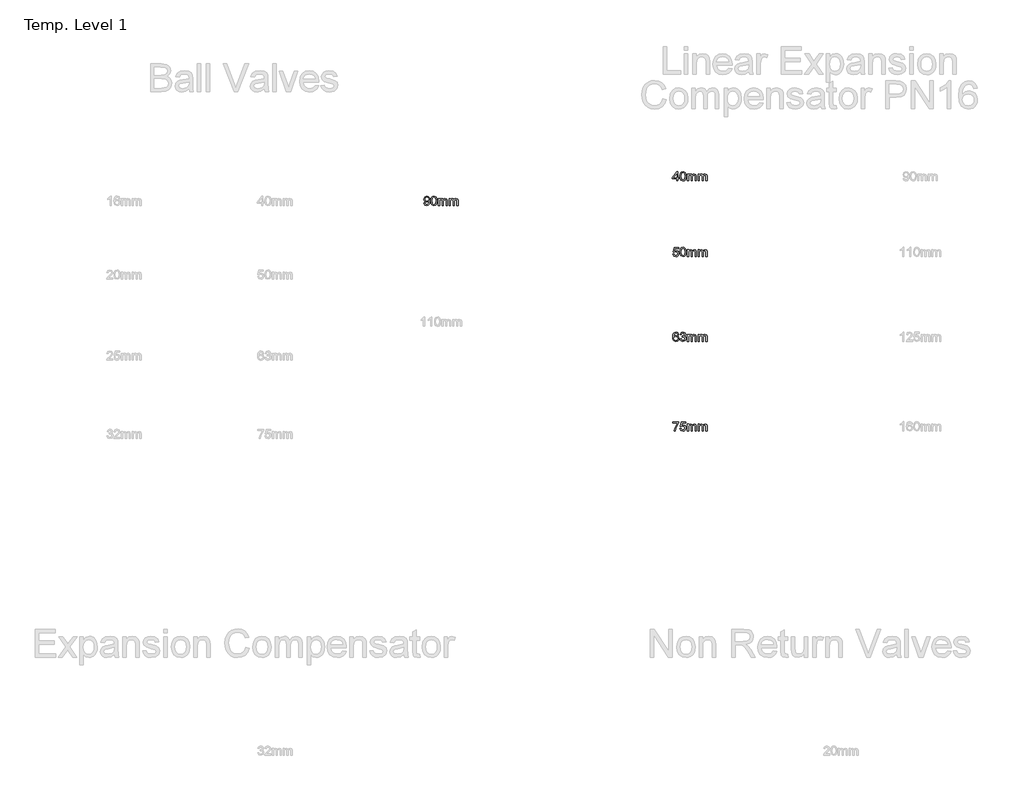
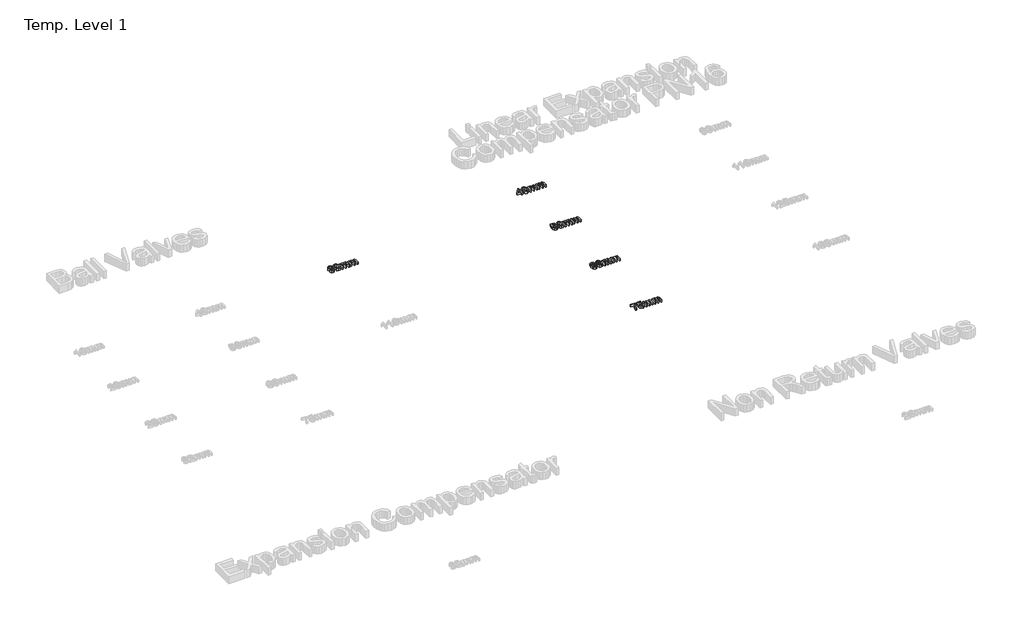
# One storey, part 56 of 62: 5 proxies.
"""IFC4 building model written with IfcOpenShell, lengths in millimetres."""

from ifc_helpers import new_model, si_unit, origin, origin_with_axes, place, context, project, spatial, polyline, outline, extrude, element, save

model = new_model("IFC4")

# Units and contexts
model_context = context("Model", 3, world=origin())
ifc_project = project(units=[si_unit("LENGTHUNIT", "METRE", prefix="MILLI")], contexts=[model_context])

# Site, building, storey
site = spatial("IfcSite", under=ifc_project)
building = spatial("IfcBuilding", under=site)
storey = spatial("IfcBuildingStorey", under=building, Name="Temp. Level 1", Elevation=0.0)

# Proxies
placement = place(None, origin())
element("IfcBuildingElementProxy", 1, Name="50mm Arial", ObjectType="50mm Arial", at=placement, inside=storey, context=model_context, shape_type="SweptSolid", body=[
    extrude(outline(polyline([(13376.0938247, 1338.2449204), (13382.2476708, 1339.0141512), (13385.0120939, 1333.1427569), (13390.2524785, 1331.3218435), (13395.2344497, 1332.4937185), (13398.6118535, 1335.6247281), (13400.6250747, 1340.9732858), (13401.5144977, 1348.1127089), (13396.5565651, 1344.6511704), (13389.807767, 1342.860305), (13379.5253151, 1347.235305), (13375.3245939, 1358.7617473), (13379.729642, 1370.6607858), (13390.7693054, 1375.1679973), (13399.5373343, 1372.5958819), (13405.5709881, 1365.2641512), (13407.6322862, 1351.4901127), (13405.5769977, 1336.5441992), (13399.4652189, 1328.0766512), (13389.964017, 1325.1679973), (13380.5048824, 1328.5994877), (13376.0938247, 1338.2449204)]), holes=[polyline([(13401.4784401, 1358.9059781), (13398.8221901, 1366.2857858), (13391.7669016, 1369.0141512), (13384.3630554, 1366.0754492), (13381.4784401, 1358.4612665), (13384.2068054, 1351.6403531), (13391.5986324, 1349.0141512), (13398.6959881, 1351.6403531), (13401.4784401, 1358.9059781)])]), origin_with_axes(), (0.0, 0.0, 1.0), 15.0),
    extrude(outline(polyline([(13413.0169016, 1350.1559781), (13414.8257958, 1364.3206415), (13420.198392, 1372.4877089), (13429.1707477, 1375.1679973), (13436.3582477, 1373.5814589), (13441.3221901, 1369.0081415), (13444.2068054, 1361.7244877), (13445.3245939, 1350.1559781), (13443.5337285, 1336.0514108), (13438.1791612, 1327.8663146), (13429.1707477, 1325.1679973), (13417.9207477, 1329.8554973), (13414.2428631, 1338.1818194), (13413.0169016, 1350.1559781)]), holes=[polyline([(13419.1707477, 1350.1679973), (13422.0553631, 1334.8855454), (13429.1707477, 1331.3218435), (13436.2861324, 1334.8975646), (13439.1707477, 1350.1679973), (13436.3822862, 1365.2761704), (13429.0986324, 1369.0141512), (13422.151517, 1365.7208819), (13419.1707477, 1350.1679973)])]), origin_with_axes(), (0.0, 0.0, 1.0), 15.0),
    extrude(outline(polyline([(13452.2476708, 1325.9372281), (13452.2476708, 1362.0910742), (13458.401517, 1362.0910742), (13458.401517, 1356.141555), (13462.6322862, 1361.0153531), (13468.6539208, 1362.860305), (13474.8197862, 1360.9792954), (13478.2092093, 1355.7088627), (13483.010892, 1361.0724444), (13489.0745939, 1362.860305), (13497.1214689, 1359.8855454), (13499.9399785, 1350.7208819), (13499.9399785, 1325.9372281), (13493.7861324, 1325.9372281), (13493.7861324, 1348.0766512), (13493.2152189, 1353.2148723), (13491.1479112, 1355.7449204), (13487.6322862, 1356.7064589), (13481.5806035, 1354.2425165), (13479.1707477, 1346.3458819), (13479.1707477, 1325.9372281), (13473.0169016, 1325.9372281), (13473.0169016, 1348.7617473), (13471.5926227, 1354.7232858), (13466.9231516, 1356.7064589), (13462.3678631, 1355.3843435), (13459.339017, 1351.5141512), (13458.401517, 1344.1704012), (13458.401517, 1325.9372281), (13452.2476708, 1325.9372281)])), origin_with_axes(), (0.0, 0.0, 1.0), 15.0),
    extrude(outline(polyline([(13509.1707477, 1325.9372281), (13509.1707477, 1362.0910742), (13515.3245939, 1362.0910742), (13515.3245939, 1356.141555), (13519.5553631, 1361.0153531), (13525.5769977, 1362.860305), (13531.7428631, 1360.9792954), (13535.1322862, 1355.7088627), (13539.9339689, 1361.0724444), (13545.9976708, 1362.860305), (13554.0445458, 1359.8855454), (13556.8630554, 1350.7208819), (13556.8630554, 1325.9372281), (13550.7092093, 1325.9372281), (13550.7092093, 1348.0766512), (13550.1382958, 1353.2148723), (13548.0709881, 1355.7449204), (13544.5553631, 1356.7064589), (13538.5036804, 1354.2425165), (13536.0938247, 1346.3458819), (13536.0938247, 1325.9372281), (13529.9399785, 1325.9372281), (13529.9399785, 1348.7617473), (13528.5156997, 1354.7232858), (13523.8462285, 1356.7064589), (13519.2909401, 1355.3843435), (13516.2620939, 1351.5141512), (13515.3245939, 1344.1704012), (13515.3245939, 1325.9372281), (13509.1707477, 1325.9372281)])), origin_with_axes(), (0.0, 0.0, 1.0), 15.0),
])
element("IfcBuildingElementProxy", 2, Name="50mm Arial", ObjectType="50mm Arial", at=placement, inside=storey, context=model_context, shape_type="SweptSolid", body=[
    extrude(outline(polyline([(14715.3245939, 1455.9372281), (14715.3245939, 1467.4756896), (14693.0169016, 1467.4756896), (14693.0169016, 1473.6295358), (14716.8630554, 1504.3987665), (14721.4784401, 1504.3987665), (14721.4784401, 1473.6295358), (14727.6322862, 1473.6295358), (14727.6322862, 1467.4756896), (14721.4784401, 1467.4756896), (14721.4784401, 1455.9372281), (14715.3245939, 1455.9372281)]), holes=[polyline([(14715.3245939, 1473.6295358), (14715.3245939, 1492.6439589), (14700.589017, 1473.6295358), (14715.3245939, 1473.6295358)])]), origin_with_axes(), (0.0, 0.0, 1.0), 15.0),
    extrude(outline(polyline([(14733.0169016, 1480.1559781), (14734.8257958, 1494.3206415), (14740.198392, 1502.4877089), (14749.1707477, 1505.1679973), (14756.3582477, 1503.5814589), (14761.3221901, 1499.0081415), (14764.2068054, 1491.7244877), (14765.3245939, 1480.1559781), (14763.5337285, 1466.0514108), (14758.1791612, 1457.8663146), (14749.1707477, 1455.1679973), (14737.9207477, 1459.8554973), (14734.2428631, 1468.1818194), (14733.0169016, 1480.1559781)]), holes=[polyline([(14739.1707477, 1480.1679973), (14742.0553631, 1464.8855454), (14749.1707477, 1461.3218435), (14756.2861324, 1464.8975646), (14759.1707477, 1480.1679973), (14756.3822862, 1495.2761704), (14749.0986324, 1499.0141512), (14742.151517, 1495.7208819), (14739.1707477, 1480.1679973)])]), origin_with_axes(), (0.0, 0.0, 1.0), 15.0),
    extrude(outline(polyline([(14772.2476708, 1455.9372281), (14772.2476708, 1492.0910742), (14778.401517, 1492.0910742), (14778.401517, 1486.141555), (14782.6322862, 1491.0153531), (14788.6539208, 1492.860305), (14794.8197862, 1490.9792954), (14798.2092093, 1485.7088627), (14803.010892, 1491.0724444), (14809.0745939, 1492.860305), (14817.1214689, 1489.8855454), (14819.9399785, 1480.7208819), (14819.9399785, 1455.9372281), (14813.7861324, 1455.9372281), (14813.7861324, 1478.0766512), (14813.2152189, 1483.2148723), (14811.1479112, 1485.7449204), (14807.6322862, 1486.7064589), (14801.5806035, 1484.2425165), (14799.1707477, 1476.3458819), (14799.1707477, 1455.9372281), (14793.0169016, 1455.9372281), (14793.0169016, 1478.7617473), (14791.5926227, 1484.7232858), (14786.9231516, 1486.7064589), (14782.3678631, 1485.3843435), (14779.339017, 1481.5141512), (14778.401517, 1474.1704012), (14778.401517, 1455.9372281), (14772.2476708, 1455.9372281)])), origin_with_axes(), (0.0, 0.0, 1.0), 15.0),
    extrude(outline(polyline([(14829.1707477, 1455.9372281), (14829.1707477, 1492.0910742), (14835.3245939, 1492.0910742), (14835.3245939, 1486.141555), (14839.5553631, 1491.0153531), (14845.5769977, 1492.860305), (14851.7428631, 1490.9792954), (14855.1322862, 1485.7088627), (14859.9339689, 1491.0724444), (14865.9976708, 1492.860305), (14874.0445458, 1489.8855454), (14876.8630554, 1480.7208819), (14876.8630554, 1455.9372281), (14870.7092093, 1455.9372281), (14870.7092093, 1478.0766512), (14870.1382958, 1483.2148723), (14868.0709881, 1485.7449204), (14864.5553631, 1486.7064589), (14858.5036804, 1484.2425165), (14856.0938247, 1476.3458819), (14856.0938247, 1455.9372281), (14849.9399785, 1455.9372281), (14849.9399785, 1478.7617473), (14848.5156997, 1484.7232858), (14843.8462285, 1486.7064589), (14839.2909401, 1485.3843435), (14836.2620939, 1481.5141512), (14835.3245939, 1474.1704012), (14835.3245939, 1455.9372281), (14829.1707477, 1455.9372281)])), origin_with_axes(), (0.0, 0.0, 1.0), 15.0),
])
element("IfcBuildingElementProxy", 3, Name="50mm Arial", ObjectType="50mm Arial", at=placement, inside=storey, context=model_context, shape_type="SweptSolid", body=[
    extrude(outline(polyline([(14695.3245939, 1067.8784061), (14701.4784401, 1068.6476368), (14704.5794016, 1062.3074926), (14711.0096901, 1060.1860984), (14718.7260362, 1063.1368195), (14721.4784401, 1070.9673484), (14718.9003151, 1078.2750407), (14711.1058439, 1080.9553291), (14705.7031997, 1079.8856176), (14702.2476708, 1077.1091753), (14696.0938247, 1077.8784061), (14701.4784401, 1103.2630214), (14725.3245939, 1103.2630214), (14725.3245939, 1097.1091753), (14706.4544016, 1097.1091753), (14703.8221901, 1083.551483), (14712.8245939, 1087.1091753), (14723.3474304, 1082.6981176), (14727.6322862, 1071.3519638), (14723.7741131, 1059.9336945), (14718.2332477, 1055.5076128), (14710.9856516, 1054.0322522), (14700.1262766, 1057.8243195), (14695.3245939, 1067.8784061)])), origin_with_axes(), (0.0, 0.0, 1.0), 15.0),
    extrude(outline(polyline([(14733.0169016, 1079.020233), (14734.8257958, 1093.1848964), (14740.198392, 1101.3519638), (14749.1707477, 1104.0322522), (14756.3582477, 1102.4457138), (14761.3221901, 1097.8723964), (14764.2068054, 1090.5887426), (14765.3245939, 1079.020233), (14763.5337285, 1064.9156657), (14758.1791612, 1056.7305695), (14749.1707477, 1054.0322522), (14737.9207477, 1058.7197522), (14734.2428631, 1067.0460743), (14733.0169016, 1079.020233)]), holes=[polyline([(14739.1707477, 1079.0322522), (14742.0553631, 1063.7498003), (14749.1707477, 1060.1860984), (14756.2861324, 1063.7618195), (14759.1707477, 1079.0322522), (14756.3822862, 1094.1404253), (14749.0986324, 1097.8784061), (14742.151517, 1094.5851368), (14739.1707477, 1079.0322522)])]), origin_with_axes(), (0.0, 0.0, 1.0), 15.0),
    extrude(outline(polyline([(14772.2476708, 1054.801483), (14772.2476708, 1090.9553291), (14778.401517, 1090.9553291), (14778.401517, 1085.0058099), (14782.6322862, 1089.879608), (14788.6539208, 1091.7245599), (14794.8197862, 1089.8435503), (14798.2092093, 1084.5731176), (14803.010892, 1089.9366993), (14809.0745939, 1091.7245599), (14817.1214689, 1088.7498003), (14819.9399785, 1079.5851368), (14819.9399785, 1054.801483), (14813.7861324, 1054.801483), (14813.7861324, 1076.9409061), (14813.2152189, 1082.0791272), (14811.1479112, 1084.6091753), (14807.6322862, 1085.5707138), (14801.5806035, 1083.1067714), (14799.1707477, 1075.2101368), (14799.1707477, 1054.801483), (14793.0169016, 1054.801483), (14793.0169016, 1077.6260022), (14791.5926227, 1083.5875407), (14786.9231516, 1085.5707138), (14782.3678631, 1084.2485984), (14779.339017, 1080.3784061), (14778.401517, 1073.0346561), (14778.401517, 1054.801483), (14772.2476708, 1054.801483)])), origin_with_axes(), (0.0, 0.0, 1.0), 15.0),
    extrude(outline(polyline([(14829.1707477, 1054.801483), (14829.1707477, 1090.9553291), (14835.3245939, 1090.9553291), (14835.3245939, 1085.0058099), (14839.5553631, 1089.879608), (14845.5769977, 1091.7245599), (14851.7428631, 1089.8435503), (14855.1322862, 1084.5731176), (14859.9339689, 1089.9366993), (14865.9976708, 1091.7245599), (14874.0445458, 1088.7498003), (14876.8630554, 1079.5851368), (14876.8630554, 1054.801483), (14870.7092093, 1054.801483), (14870.7092093, 1076.9409061), (14870.1382958, 1082.0791272), (14868.0709881, 1084.6091753), (14864.5553631, 1085.5707138), (14858.5036804, 1083.1067714), (14856.0938247, 1075.2101368), (14856.0938247, 1054.801483), (14849.9399785, 1054.801483), (14849.9399785, 1077.6260022), (14848.5156997, 1083.5875407), (14843.8462285, 1085.5707138), (14839.2909401, 1084.2485984), (14836.2620939, 1080.3784061), (14835.3245939, 1073.0346561), (14835.3245939, 1054.801483), (14829.1707477, 1054.801483)])), origin_with_axes(), (0.0, 0.0, 1.0), 15.0),
])
element("IfcBuildingElementProxy", 4, Name="50mm Arial", ObjectType="50mm Arial", at=placement, inside=storey, context=model_context, shape_type="SweptSolid", body=[
    extrude(outline(polyline([(14726.8630554, 640.9553291), (14720.7092093, 640.1860984), (14718.3774785, 645.3183099), (14712.2116131, 647.8784061), (14706.6587285, 646.3880214), (14702.4580074, 640.7930695), (14700.7092093, 629.8255214), (14706.135892, 634.7353772), (14712.8606516, 636.3399445), (14723.3173824, 631.9529253), (14727.6322862, 620.6187907), (14725.6010362, 612.1272041), (14720.0120939, 606.1175888), (14711.9471901, 604.0322522), (14699.4051227, 609.5610984), (14695.767803, 616.8808099), (14694.5553631, 627.7822522), (14695.901517, 640.0388628), (14699.9399785, 648.4192714), (14705.4538006, 652.629007), (14712.5962285, 654.0322522), (14722.3197862, 650.5586945), (14726.8630554, 640.9553291)]), holes=[polyline([(14700.7092093, 620.7149445), (14702.1334881, 615.3844157), (14705.9195458, 611.5142234), (14711.4664208, 610.1860984), (14718.7200266, 612.9385022), (14721.4784401, 620.4144638), (14718.7560843, 627.5719157), (14711.214017, 630.1860984), (14703.7681035, 627.5719157), (14700.7092093, 620.7149445)])]), origin_with_axes(), (0.0, 0.0, 1.0), 15.0),
    extrude(outline(polyline([(14733.0169016, 617.8784061), (14739.1707477, 618.6476368), (14742.5661804, 612.1692714), (14748.9183439, 610.1860984), (14756.3943054, 612.9144638), (14759.1707477, 619.6692714), (14756.4183439, 626.0334541), (14749.4231516, 628.551483), (14745.1082477, 627.8784061), (14745.7933439, 634.0322522), (14753.7620939, 635.7269638), (14756.8630554, 641.1596561), (14754.6154593, 645.973358), (14748.8221901, 647.8784061), (14742.9568054, 645.9553291), (14739.9399785, 640.1860984), (14733.7861324, 640.9553291), (14738.8221901, 650.6067714), (14748.6058439, 654.0322522), (14756.0277189, 652.3435503), (14761.2200266, 647.7281657), (14763.0169016, 641.520233), (14761.3101708, 635.8471561), (14756.2620939, 631.7726368), (14762.9688247, 627.5659061), (14765.3245939, 619.5610984), (14760.6130554, 608.551483), (14748.7019977, 604.0322522), (14737.9087285, 607.8904253), (14733.0169016, 617.8784061)])), origin_with_axes(), (0.0, 0.0, 1.0), 15.0),
    extrude(outline(polyline([(14772.2476708, 604.801483), (14772.2476708, 640.9553291), (14778.401517, 640.9553291), (14778.401517, 635.0058099), (14782.6322862, 639.879608), (14788.6539208, 641.7245599), (14794.8197862, 639.8435503), (14798.2092093, 634.5731176), (14803.010892, 639.9366993), (14809.0745939, 641.7245599), (14817.1214689, 638.7498003), (14819.9399785, 629.5851368), (14819.9399785, 604.801483), (14813.7861324, 604.801483), (14813.7861324, 626.9409061), (14813.2152189, 632.0791272), (14811.1479112, 634.6091753), (14807.6322862, 635.5707138), (14801.5806035, 633.1067714), (14799.1707477, 625.2101368), (14799.1707477, 604.801483), (14793.0169016, 604.801483), (14793.0169016, 627.6260022), (14791.5926227, 633.5875407), (14786.9231516, 635.5707138), (14782.3678631, 634.2485984), (14779.339017, 630.3784061), (14778.401517, 623.0346561), (14778.401517, 604.801483), (14772.2476708, 604.801483)])), origin_with_axes(), (0.0, 0.0, 1.0), 15.0),
    extrude(outline(polyline([(14829.1707477, 604.801483), (14829.1707477, 640.9553291), (14835.3245939, 640.9553291), (14835.3245939, 635.0058099), (14839.5553631, 639.879608), (14845.5769977, 641.7245599), (14851.7428631, 639.8435503), (14855.1322862, 634.5731176), (14859.9339689, 639.9366993), (14865.9976708, 641.7245599), (14874.0445458, 638.7498003), (14876.8630554, 629.5851368), (14876.8630554, 604.801483), (14870.7092093, 604.801483), (14870.7092093, 626.9409061), (14870.1382958, 632.0791272), (14868.0709881, 634.6091753), (14864.5553631, 635.5707138), (14858.5036804, 633.1067714), (14856.0938247, 625.2101368), (14856.0938247, 604.801483), (14849.9399785, 604.801483), (14849.9399785, 627.6260022), (14848.5156997, 633.5875407), (14843.8462285, 635.5707138), (14839.2909401, 634.2485984), (14836.2620939, 630.3784061), (14835.3245939, 623.0346561), (14835.3245939, 604.801483), (14829.1707477, 604.801483)])), origin_with_axes(), (0.0, 0.0, 1.0), 15.0),
])
element("IfcBuildingElementProxy", 5, Name="50mm Arial", ObjectType="50mm Arial", at=placement, inside=storey, context=model_context, shape_type="SweptSolid", body=[
    extrude(outline(polyline([(14695.3245939, 172.1091753), (14695.3245939, 178.2630214), (14727.6322862, 178.2630214), (14727.6322862, 173.2870599), (14718.4676227, 160.0478772), (14711.4544016, 143.1788868), (14709.1707477, 129.801483), (14703.0169016, 129.801483), (14705.4628151, 143.6836945), (14712.1755554, 159.3748003), (14721.4784401, 172.1091753), (14695.3245939, 172.1091753)])), origin_with_axes(), (0.0, 0.0, 1.0), 15.0),
    extrude(outline(polyline([(14733.0169016, 142.8784061), (14739.1707477, 143.6476368), (14742.2717093, 137.3074926), (14748.7019977, 135.1860984), (14756.4183439, 138.1368195), (14759.1707477, 145.9673484), (14756.5926227, 153.2750407), (14748.7981516, 155.9553291), (14743.3955074, 154.8856176), (14739.9399785, 152.1091753), (14733.7861324, 152.8784061), (14739.1707477, 178.2630214), (14763.0169016, 178.2630214), (14763.0169016, 172.1091753), (14744.1467093, 172.1091753), (14741.5144977, 158.551483), (14750.5169016, 162.1091753), (14761.0397381, 157.6981176), (14765.3245939, 146.3519638), (14761.4664208, 134.9336945), (14755.9255554, 130.5076128), (14748.6779593, 129.0322522), (14737.8185843, 132.8243195), (14733.0169016, 142.8784061)])), origin_with_axes(), (0.0, 0.0, 1.0), 15.0),
    extrude(outline(polyline([(14772.2476708, 129.801483), (14772.2476708, 165.9553291), (14778.401517, 165.9553291), (14778.401517, 160.0058099), (14782.6322862, 164.879608), (14788.6539208, 166.7245599), (14794.8197862, 164.8435503), (14798.2092093, 159.5731176), (14803.010892, 164.9366993), (14809.0745939, 166.7245599), (14817.1214689, 163.7498003), (14819.9399785, 154.5851368), (14819.9399785, 129.801483), (14813.7861324, 129.801483), (14813.7861324, 151.9409061), (14813.2152189, 157.0791272), (14811.1479112, 159.6091753), (14807.6322862, 160.5707138), (14801.5806035, 158.1067714), (14799.1707477, 150.2101368), (14799.1707477, 129.801483), (14793.0169016, 129.801483), (14793.0169016, 152.6260022), (14791.5926227, 158.5875407), (14786.9231516, 160.5707138), (14782.3678631, 159.2485984), (14779.339017, 155.3784061), (14778.401517, 148.0346561), (14778.401517, 129.801483), (14772.2476708, 129.801483)])), origin_with_axes(), (0.0, 0.0, 1.0), 15.0),
    extrude(outline(polyline([(14829.1707477, 129.801483), (14829.1707477, 165.9553291), (14835.3245939, 165.9553291), (14835.3245939, 160.0058099), (14839.5553631, 164.879608), (14845.5769977, 166.7245599), (14851.7428631, 164.8435503), (14855.1322862, 159.5731176), (14859.9339689, 164.9366993), (14865.9976708, 166.7245599), (14874.0445458, 163.7498003), (14876.8630554, 154.5851368), (14876.8630554, 129.801483), (14870.7092093, 129.801483), (14870.7092093, 151.9409061), (14870.1382958, 157.0791272), (14868.0709881, 159.6091753), (14864.5553631, 160.5707138), (14858.5036804, 158.1067714), (14856.0938247, 150.2101368), (14856.0938247, 129.801483), (14849.9399785, 129.801483), (14849.9399785, 152.6260022), (14848.5156997, 158.5875407), (14843.8462285, 160.5707138), (14839.2909401, 159.2485984), (14836.2620939, 155.3784061), (14835.3245939, 148.0346561), (14835.3245939, 129.801483), (14829.1707477, 129.801483)])), origin_with_axes(), (0.0, 0.0, 1.0), 15.0),
])

save(model, "model.ifc")
